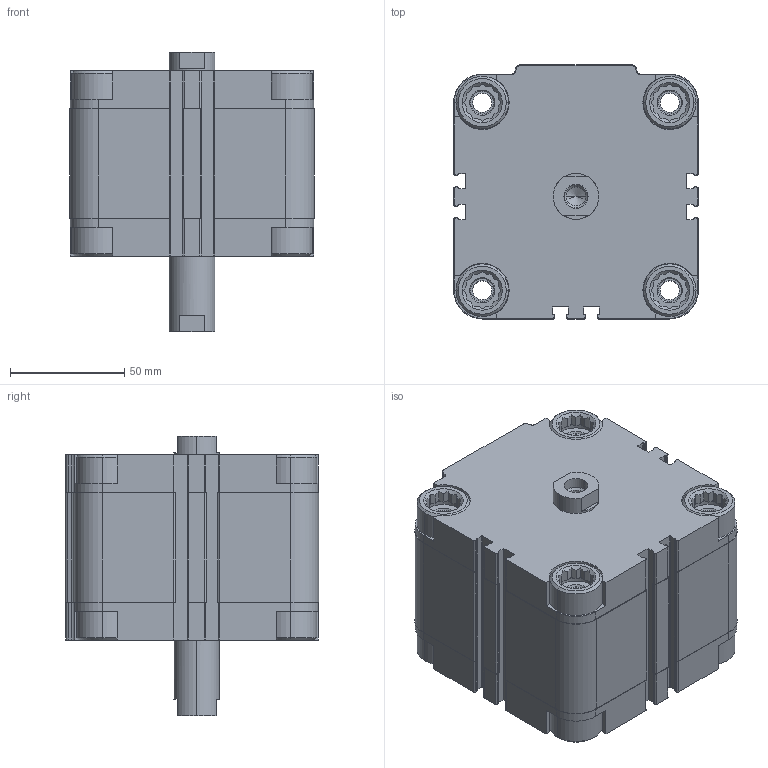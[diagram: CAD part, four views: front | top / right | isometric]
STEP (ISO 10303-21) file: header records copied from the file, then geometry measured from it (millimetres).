
FILE_DESCRIPTION (( 'STEP AP203' ), '1' );
FILE_NAME ('CDVU80-25F-P.STEP', '2020-07-24T18:40:19', ( '' ), ( '' ), 'SwSTEP 2.0', 'SolidWorks 2019', '' );
FILE_SCHEMA (( 'CONFIG_CONTROL_DESIGN' ));
Length unit declared in the file: millimetre
Products named in the file (1): CDVU80-25F-P
Bounding box: 107 x 111 x 122 mm (x, y, z)
Volume: 758185.7 mm3; surface area: 124126.5 mm2
Topology: 2 solids, 2 shells, 670 faces, 1812 edges, 1188 vertices
Faces by surface type: plane 394, cylinder 212, cone 64
Entity records: 21267 total; most frequent: CARTESIAN_POINT 4239, ORIENTED_EDGE 3608, DIRECTION 3458, EDGE_CURVE 1804, VERTEX_POINT 1188, AXIS2_PLACEMENT_3D 1175, VECTOR 1108, LINE 1108
